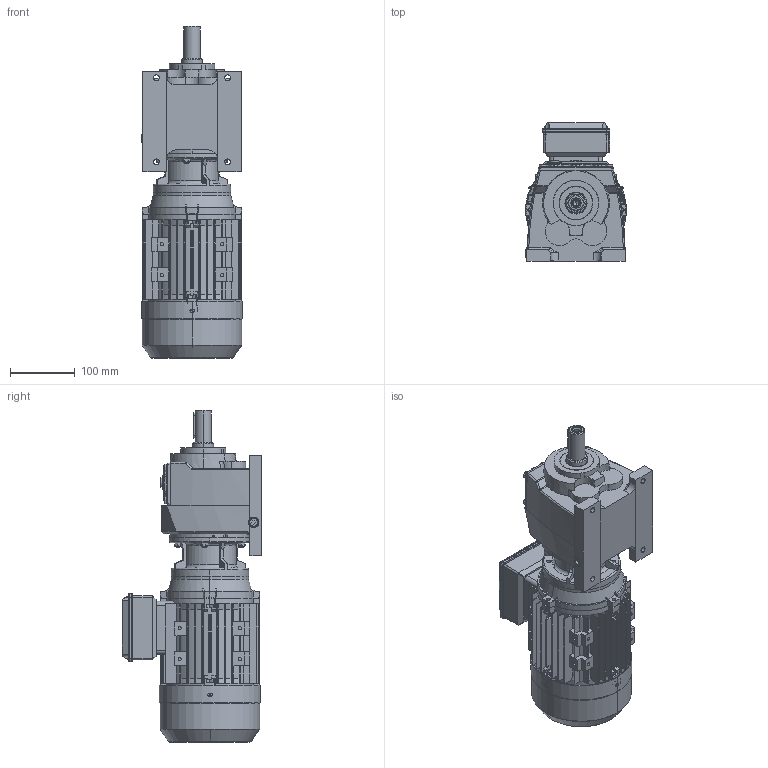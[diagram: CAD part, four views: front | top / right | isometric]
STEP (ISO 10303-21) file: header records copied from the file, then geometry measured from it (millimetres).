
FILE_DESCRIPTION (( 'STEP AP203' ), '1' );
FILE_NAME ('MV102-MV103-MX801-Stirnradgetriebemotor.STEP', '2020-07-16T09:19:12', ( '' ), ( '' ), 'SwSTEP 2.0', 'SolidWorks 2012', '' );
FILE_SCHEMA (( 'CONFIG_CONTROL_DESIGN' ));
Products named in the file (14): MV102-MV103-MX801-Stirnradgetriebemotor; MN_10_3_0_A-B08_B14; M103_Varsayìlan; 1380B14_Varsayìlan; ML12A_Varsayìlan; L貨terfl貪el_MS80; MX1_80_B14; MX80_B14_1; Klemmenkastenunterteil_MS80; B-Lagerschild_MS80; Klemmenkastendeckel_MS80; L³fterhaube_MS80; B14-Flansch_MS80; Gehõuse_MS80
Assembly tree (13 placements, depth 4):
  MV102-MV103-MX801-Stirnradgetriebemotor
    MX1_80_B14
      MX80_B14_1
        Gehõuse_MS80
        B14-Flansch_MS80
        Klemmenkastenunterteil_MS80
        Klemmenkastendeckel_MS80
        B-Lagerschild_MS80
        L³fterhaube_MS80
        L貨terfl貪el_MS80
    MN_10_3_0_A-B08_B14
      M103_Varsayìlan
      1380B14_Varsayìlan
      ML12A_Varsayìlan
Bounding box: 156 x 214.83 x 513 mm (x, y, z)
Volume: 3703878.5 mm3; surface area: 801373.4 mm2
Topology: 10 solids, 15 shells, 2975 faces, 7926 edges, 5113 vertices
Faces by surface type: plane 1757, cylinder 672, cone 306, bspline 131, torus 100, sphere 9
Entity records: 110674 total; most frequent: CARTESIAN_POINT 36049, ORIENTED_EDGE 15824, DIRECTION 14212, EDGE_CURVE 7912, VERTEX_POINT 5113, VECTOR 4990, LINE 4990, AXIS2_PLACEMENT_3D 4611
